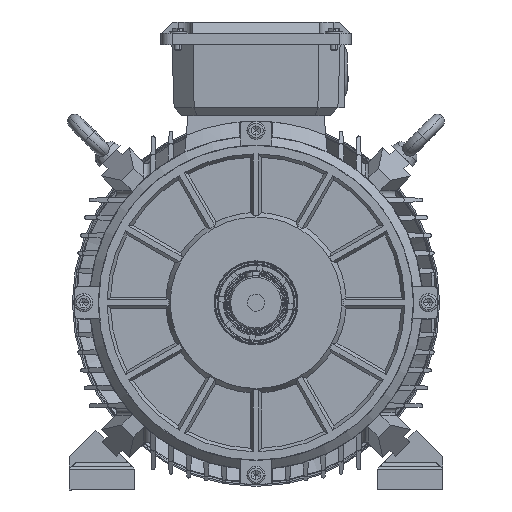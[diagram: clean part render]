
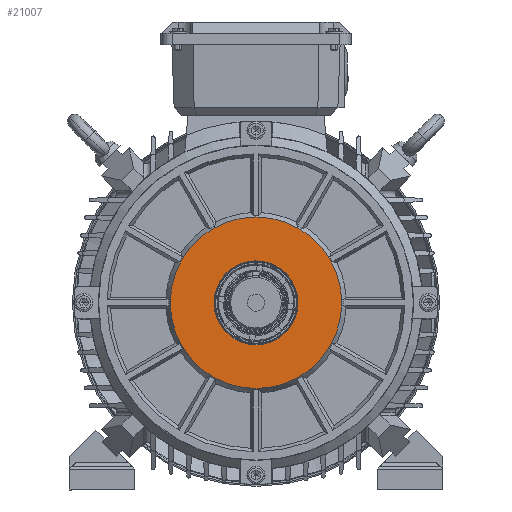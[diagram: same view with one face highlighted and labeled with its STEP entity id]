
A CAD part, left-side view. The second image highlights one B-rep face of the part: STEP entity #21007.
In plain terms, the highlighted planar face has unit normal (-1, 0, 0).
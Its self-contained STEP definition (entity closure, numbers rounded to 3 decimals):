
#3040 = CARTESIAN_POINT ( 'NONE',  ( -133.99, 26.654, -1.988 ) ) ;
#6411 = CIRCLE ( 'NONE', #28874, 29.577 ) ;
#10133 = DIRECTION ( 'NONE',  ( 0., 0., 1. ) ) ;
#10704 = VERTEX_POINT ( 'NONE', #94482 ) ;
#12630 = CARTESIAN_POINT ( 'NONE',  ( -133.99, -2.924, -31.566 ) ) ;
#20138 = DIRECTION ( 'NONE',  ( 0., 0., 1. ) ) ;
#21007 = ADVANCED_FACE ( 'NONE', ( #133013, #36010 ), #109524, .F. ) ;
#22668 = DIRECTION ( 'NONE',  ( -1., 0., 0. ) ) ;
#24249 = DIRECTION ( 'NONE',  ( 1., 0., 0. ) ) ;
#26803 = ORIENTED_EDGE ( 'NONE', *, *, #144671, .T. ) ;
#28874 = AXIS2_PLACEMENT_3D ( 'NONE', #39121, #133090, #50115 ) ;
#31751 = CIRCLE ( 'NONE', #124123, 60.5 ) ;
#36010 = FACE_BOUND ( 'NONE', #136829, .T. ) ;
#36766 = DIRECTION ( 'NONE',  ( 0., -1., 0. ) ) ;
#39121 = CARTESIAN_POINT ( 'NONE',  ( -133.99, -2.924, -1.988 ) ) ;
#43642 = VERTEX_POINT ( 'NONE', #57054 ) ;
#46886 = ORIENTED_EDGE ( 'NONE', *, *, #114085, .T. ) ;
#50115 = DIRECTION ( 'NONE',  ( 0., 0., 1. ) ) ;
#50845 = EDGE_CURVE ( 'NONE', #112694, #10704, #6411, .T. ) ;
#57054 = CARTESIAN_POINT ( 'NONE',  ( -133.99, -2.924, 58.512 ) ) ;
#58562 = AXIS2_PLACEMENT_3D ( 'NONE', #122020, #75045, #97018 ) ;
#62209 = CIRCLE ( 'NONE', #149690, 29.577 ) ;
#65763 = AXIS2_PLACEMENT_3D ( 'NONE', #3040, #24249, #36766 ) ;
#75045 = DIRECTION ( 'NONE',  ( -1., 0., 0. ) ) ;
#79663 = CARTESIAN_POINT ( 'NONE',  ( -133.99, -2.924, -1.988 ) ) ;
#80941 = CARTESIAN_POINT ( 'NONE',  ( -133.99, -2.924, -62.488 ) ) ;
#91274 = VERTEX_POINT ( 'NONE', #80941 ) ;
#94482 = CARTESIAN_POINT ( 'NONE',  ( -133.99, -2.924, 27.589 ) ) ;
#97018 = DIRECTION ( 'NONE',  ( 0., 0., 1. ) ) ;
#98664 = EDGE_CURVE ( 'NONE', #10704, #112694, #62209, .T. ) ;
#109524 = PLANE ( 'NONE',  #65763 ) ;
#112694 = VERTEX_POINT ( 'NONE', #12630 ) ;
#114085 = EDGE_CURVE ( 'NONE', #91274, #43642, #126019, .T. ) ;
#115261 = ORIENTED_EDGE ( 'NONE', *, *, #50845, .F. ) ;
#115641 = DIRECTION ( 'NONE',  ( -1., 0., 0. ) ) ;
#122020 = CARTESIAN_POINT ( 'NONE',  ( -133.99, -2.924, -1.988 ) ) ;
#124123 = AXIS2_PLACEMENT_3D ( 'NONE', #79663, #115641, #20138 ) ;
#126019 = CIRCLE ( 'NONE', #58562, 60.5 ) ;
#129910 = CARTESIAN_POINT ( 'NONE',  ( -133.99, -2.924, -1.988 ) ) ;
#133013 = FACE_OUTER_BOUND ( 'NONE', #151177, .T. ) ;
#133090 = DIRECTION ( 'NONE',  ( -1., 0., 0. ) ) ;
#136829 = EDGE_LOOP ( 'NONE', ( #150724, #115261 ) ) ;
#144671 = EDGE_CURVE ( 'NONE', #43642, #91274, #31751, .T. ) ;
#149690 = AXIS2_PLACEMENT_3D ( 'NONE', #129910, #22668, #10133 ) ;
#150724 = ORIENTED_EDGE ( 'NONE', *, *, #98664, .F. ) ;
#151177 = EDGE_LOOP ( 'NONE', ( #46886, #26803 ) ) ;
